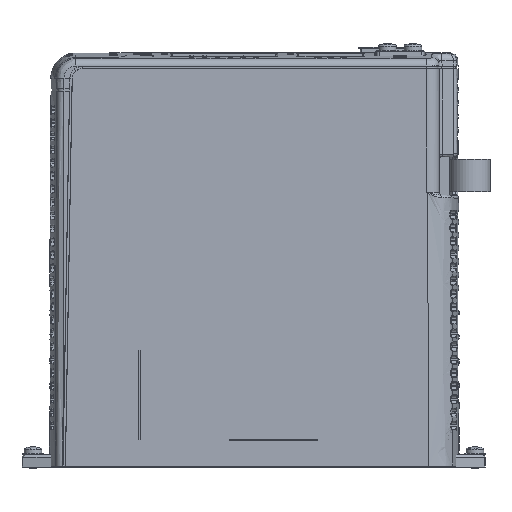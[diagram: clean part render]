
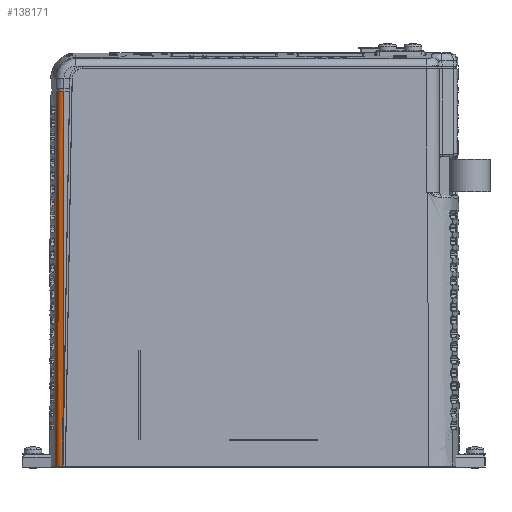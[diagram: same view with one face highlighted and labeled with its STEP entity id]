
A CAD part, left-side view. The second image highlights one B-rep face of the part: STEP entity #138171.
In plain terms, the highlighted free-form (B-spline) face has degree [3, 2] with [4, 3] control points.
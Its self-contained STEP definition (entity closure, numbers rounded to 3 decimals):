
#737 = VERTEX_POINT ( 'NONE', #108626 ) ;
#2493 = CARTESIAN_POINT ( 'NONE',  ( -22.145, 76.868, 140.988 ) ) ;
#4927 = CARTESIAN_POINT ( 'NONE',  ( -25., 74.331, 0.389 ) ) ;
#6014 = CARTESIAN_POINT ( 'NONE',  ( -22.647, 77.26, 0.389 ) ) ;
#7156 = CARTESIAN_POINT ( 'NONE',  ( -22.981, 77.186, 0.389 ) ) ;
#7335 = CARTESIAN_POINT ( 'NONE',  ( -24.829, 76.606, 49.425 ) ) ;
#7954 = CARTESIAN_POINT ( 'NONE',  ( -24.125, 76.476, 0.389 ) ) ;
#8130 = CARTESIAN_POINT ( 'NONE',  ( -24.655, 74.053, 99.283 ) ) ;
#10415 = CARTESIAN_POINT ( 'NONE',  ( -25., 74.331, 0.389 ) ) ;
#11291 = EDGE_CURVE ( 'NONE', #200151, #737, #133270, .T. ) ;
#13805 = B_SPLINE_CURVE_WITH_KNOTS ( 'NONE', 3,
 ( #24010, #134380, #21644, #4927 ),
 .UNSPECIFIED., .F., .F.,
 ( 4, 4 ),
 ( 0.005, 0.153 ),
 .UNSPECIFIED. ) ;
#15543 = CARTESIAN_POINT ( 'NONE',  ( -24.426, 74.594, 148.289 ) ) ;
#20818 = CARTESIAN_POINT ( 'NONE',  ( -22.119, 76.847, 148.289 ) ) ;
#21644 = CARTESIAN_POINT ( 'NONE',  ( -24.828, 74.193, 49.689 ) ) ;
#24010 = CARTESIAN_POINT ( 'NONE',  ( -24.484, 73.915, 148.289 ) ) ;
#24043 = CARTESIAN_POINT ( 'NONE',  ( -22.116, 76.845, 149.176 ) ) ;
#25608 = CARTESIAN_POINT ( 'NONE',  ( -22.472, 77.124, 49.391 ) ) ;
#28547 = CARTESIAN_POINT ( 'NONE',  ( -25., 74.672, 0.389 ) ) ;
#41527 = CARTESIAN_POINT ( 'NONE',  ( -22.633, 77.249, 4.389 ) ) ;
#44738 = CARTESIAN_POINT ( 'NONE',  ( -22.294, 76.984, 99.283 ) ) ;
#45349 = CARTESIAN_POINT ( 'NONE',  ( -24.553, 75.943, 0.389 ) ) ;
#50524 = CARTESIAN_POINT ( 'NONE',  ( -24.484, 73.915, 148.289 ) ) ;
#56326 = ORIENTED_EDGE ( 'NONE', *, *, #172781, .F. ) ;
#57502 = CARTESIAN_POINT ( 'NONE',  ( -22.597, 77.221, 14.389 ) ) ;
#58726 = B_SPLINE_CURVE_WITH_KNOTS ( 'NONE', 3,
 ( #168744, #95981, #41527, #79095, #57502, #185523, #225303, #133562, #78298, #206227, #224511, #2493, #20818 ),
 .UNSPECIFIED., .F., .F.,
 ( 4, 3, 3, 3, 4 ),
 ( 0., 0.006, 0.03, 0.126, 0.148 ),
 .UNSPECIFIED. ) ;
#62308 = CARTESIAN_POINT ( 'NONE',  ( -22.65, 77.263, -0.502 ) ) ;
#69000 = CARTESIAN_POINT ( 'NONE',  ( -22.77, 76.647, 148.289 ) ) ;
#78298 = CARTESIAN_POINT ( 'NONE',  ( -22.311, 76.998, 94.388 ) ) ;
#79095 = CARTESIAN_POINT ( 'NONE',  ( -22.626, 77.243, 6.389 ) ) ;
#81317 = CARTESIAN_POINT ( 'NONE',  ( -24.717, 75.649, 0.389 ) ) ;
#82100 = CARTESIAN_POINT ( 'NONE',  ( -24.943, 75.004, 0.389 ) ) ;
#82266 = CARTESIAN_POINT ( 'NONE',  ( -24.655, 76.47, 99.318 ) ) ;
#82877 = CARTESIAN_POINT ( 'NONE',  ( -23.873, 76.699, 0.389 ) ) ;
#95981 = CARTESIAN_POINT ( 'NONE',  ( -22.64, 77.255, 2.389 ) ) ;
#100277 =( BOUNDED_SURFACE ( )  B_SPLINE_SURFACE ( 3, 2, ( 
 ( #24043, #116831, #155961 ),
 ( #44738, #82266, #8130 ),
 ( #25608, #7335, #190326 ),
 ( #62308, #228520, #118401 ) ),
 .UNSPECIFIED., .F., .F., .F. ) 
 B_SPLINE_SURFACE_WITH_KNOTS ( ( 4, 4 ),
 ( 3, 3 ),
 ( 0.004, 0.154 ),
 ( 0., 1. ),
 .UNSPECIFIED. ) 
 GEOMETRIC_REPRESENTATION_ITEM ( )  RATIONAL_B_SPLINE_SURFACE ( (
 ( 1., 0.778, 1.),
 ( 1., 0.779, 1.),
 ( 1., 0.779, 1.),
 ( 1., 0.78, 1.) ) ) 
 REPRESENTATION_ITEM ( '' )  SURFACE ( )  );
#100418 = EDGE_CURVE ( 'NONE', #184297, #209035, #115729, .T. ) ;
#105892 = CARTESIAN_POINT ( 'NONE',  ( -23.606, 76.063, 148.289 ) ) ;
#108626 = CARTESIAN_POINT ( 'NONE',  ( -22.119, 76.847, 148.289 ) ) ;
#115729 = B_SPLINE_CURVE_WITH_KNOTS ( 'NONE', 3,
 ( #229141, #28547, #82100, #81317, #45349, #7954, #82877, #119803, #7156, #226772 ),
 .UNSPECIFIED., .F., .F.,
 ( 4, 2, 2, 2, 4 ),
 ( 0., 0.001, 0.002, 0.003, 0.004 ),
 .UNSPECIFIED. ) ;
#116831 = CARTESIAN_POINT ( 'NONE',  ( -24.481, 76.333, 149.183 ) ) ;
#118401 = CARTESIAN_POINT ( 'NONE',  ( -25.003, 74.333, -0.502 ) ) ;
#118743 = EDGE_LOOP ( 'NONE', ( #56326, #170185, #198496, #217786 ) ) ;
#119803 = CARTESIAN_POINT ( 'NONE',  ( -23.292, 77.06, 0.389 ) ) ;
#122158 = FACE_OUTER_BOUND ( 'NONE', #118743, .T. ) ;
#124279 = CARTESIAN_POINT ( 'NONE',  ( -22.451, 76.775, 148.289 ) ) ;
#133270 = B_SPLINE_CURVE_WITH_KNOTS ( 'NONE', 3,
 ( #177794, #141847, #15543, #143444, #216032, #105892, #178589, #69000, #124279, #162595 ),
 .UNSPECIFIED., .F., .F.,
 ( 4, 2, 2, 2, 4 ),
 ( 0., 0.25, 0.5, 0.75, 1. ),
 .UNSPECIFIED. ) ;
#133562 = CARTESIAN_POINT ( 'NONE',  ( -22.426, 77.087, 62.388 ) ) ;
#134380 = CARTESIAN_POINT ( 'NONE',  ( -24.656, 74.054, 98.989 ) ) ;
#138171 = ADVANCED_FACE ( 'NONE', ( #122158 ), #100277, .T. ) ;
#141847 = CARTESIAN_POINT ( 'NONE',  ( -24.484, 74.255, 148.289 ) ) ;
#143444 = CARTESIAN_POINT ( 'NONE',  ( -24.2, 75.234, 148.289 ) ) ;
#155961 = CARTESIAN_POINT ( 'NONE',  ( -24.481, 73.913, 149.176 ) ) ;
#162595 = CARTESIAN_POINT ( 'NONE',  ( -22.119, 76.847, 148.289 ) ) ;
#168744 = CARTESIAN_POINT ( 'NONE',  ( -22.647, 77.26, 0.389 ) ) ;
#170185 = ORIENTED_EDGE ( 'NONE', *, *, #11291, .T. ) ;
#172781 = EDGE_CURVE ( 'NONE', #200151, #184297, #13805, .T. ) ;
#177794 = CARTESIAN_POINT ( 'NONE',  ( -24.484, 73.915, 148.289 ) ) ;
#178589 = CARTESIAN_POINT ( 'NONE',  ( -23.347, 76.29, 148.289 ) ) ;
#184297 = VERTEX_POINT ( 'NONE', #10415 ) ;
#185523 = CARTESIAN_POINT ( 'NONE',  ( -22.569, 77.199, 22.388 ) ) ;
#190326 = CARTESIAN_POINT ( 'NONE',  ( -24.829, 74.193, 49.391 ) ) ;
#198496 = ORIENTED_EDGE ( 'NONE', *, *, #236233, .F. ) ;
#200151 = VERTEX_POINT ( 'NONE', #50524 ) ;
#206227 = CARTESIAN_POINT ( 'NONE',  ( -22.197, 76.908, 126.387 ) ) ;
#209035 = VERTEX_POINT ( 'NONE', #6014 ) ;
#216032 = CARTESIAN_POINT ( 'NONE',  ( -24.032, 75.535, 148.289 ) ) ;
#217786 = ORIENTED_EDGE ( 'NONE', *, *, #100418, .F. ) ;
#224511 = CARTESIAN_POINT ( 'NONE',  ( -22.171, 76.888, 133.688 ) ) ;
#225303 = CARTESIAN_POINT ( 'NONE',  ( -22.54, 77.177, 30.388 ) ) ;
#226772 = CARTESIAN_POINT ( 'NONE',  ( -22.647, 77.26, 0.389 ) ) ;
#228520 = CARTESIAN_POINT ( 'NONE',  ( -25.003, 76.743, -0.495 ) ) ;
#229141 = CARTESIAN_POINT ( 'NONE',  ( -25., 74.331, 0.389 ) ) ;
#236233 = EDGE_CURVE ( 'NONE', #209035, #737, #58726, .T. ) ;
